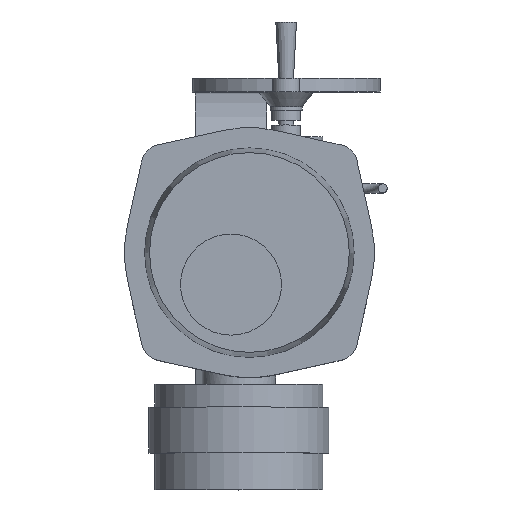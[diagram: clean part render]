
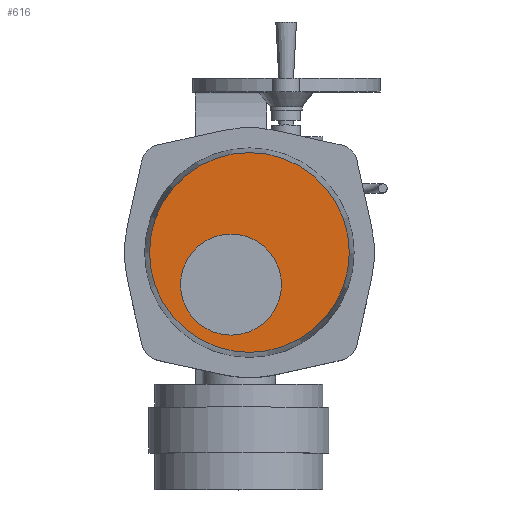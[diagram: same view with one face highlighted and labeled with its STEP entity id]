
A CAD part, top view. The second image highlights one B-rep face of the part: STEP entity #616.
In plain terms, the highlighted planar face has unit normal (0, 0, 1).
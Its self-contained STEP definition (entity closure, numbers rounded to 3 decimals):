
#616=ADVANCED_FACE('',(#8712,#8714),#8716,.T.);
#8712=FACE_BOUND('',#8713,.T.);
#8713=EDGE_LOOP('',(#15017));
#8714=FACE_BOUND('',#8715,.T.);
#8715=EDGE_LOOP('',(#15018));
#8716=PLANE('',#8717);
#8717=AXIS2_PLACEMENT_3D('',#8718,#8719,#8720);
#8718=CARTESIAN_POINT('',(20.,38.,691.));
#8719=DIRECTION('',(0.,0.,1.));
#8720=DIRECTION('',(-1.,0.,0.));
#15017=ORIENTED_EDGE('',*,*,#20001,.T.);
#15018=ORIENTED_EDGE('',*,*,#20004,.F.);
#20001=EDGE_CURVE('',#22685,#22685,#22686,.T.);
#20004=EDGE_CURVE('',#22691,#22691,#22692,.T.);
#22685=VERTEX_POINT('',#27991);
#22686=CIRCLE('',#27992,108.707);
#22691=VERTEX_POINT('',#28006);
#22692=CIRCLE('',#28007,55.);
#27991=CARTESIAN_POINT('',(-88.707,38.,691.));
#27992=AXIS2_PLACEMENT_3D('',#27993,#27994,#27995);
#27993=CARTESIAN_POINT('',(20.,38.,691.));
#27994=DIRECTION('',(0.,0.,1.));
#27995=DIRECTION('',(-1.,0.,0.));
#28006=CARTESIAN_POINT('',(-55.,3.,691.));
#28007=AXIS2_PLACEMENT_3D('',#28008,#28009,#28010);
#28008=CARTESIAN_POINT('',(0.,3.,691.));
#28009=DIRECTION('',(0.,0.,1.));
#28010=DIRECTION('',(-1.,0.,0.));
